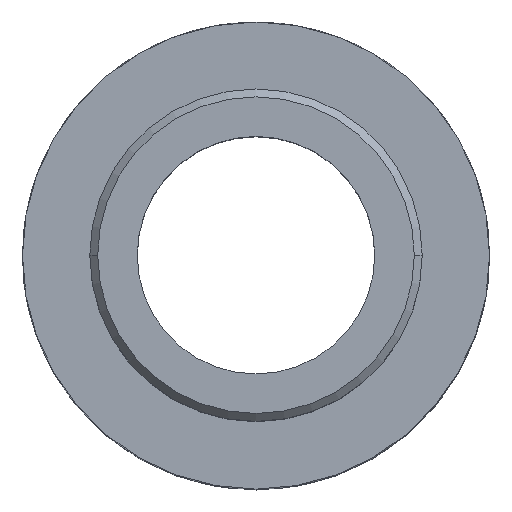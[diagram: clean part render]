
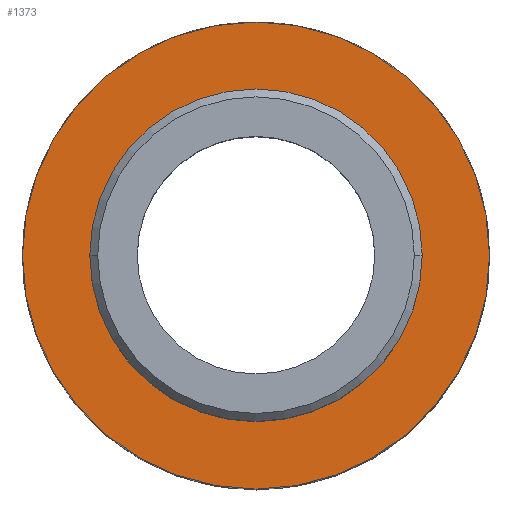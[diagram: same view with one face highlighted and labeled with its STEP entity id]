
A CAD part, top view. The second image highlights one B-rep face of the part: STEP entity #1373.
In plain terms, the highlighted planar face has unit normal (0, 0, 1).
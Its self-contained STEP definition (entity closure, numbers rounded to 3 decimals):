
#1172 = VERTEX_POINT ( 'NONE', #3574 ) ;
#1233 = EDGE_CURVE ( 'NONE', #1172, #1238, #3705, .T. ) ;
#1238 = VERTEX_POINT ( 'NONE', #3754 ) ;
#1278 = VERTEX_POINT ( 'NONE', #3766 ) ;
#1282 = EDGE_CURVE ( 'NONE', #1285, #1278, #3813, .T. ) ;
#1285 = VERTEX_POINT ( 'NONE', #3797 ) ;
#1304 = EDGE_CURVE ( 'NONE', #1238, #1172, #3828, .T. ) ;
#1311 = EDGE_LOOP ( 'NONE', ( #1324, #1377 ) ) ;
#1324 = ORIENTED_EDGE ( 'NONE', *, *, #1282, .T. ) ;
#1334 = EDGE_CURVE ( 'NONE', #1278, #1285, #3889, .T. ) ;
#1371 = ORIENTED_EDGE ( 'NONE', *, *, #1304, .F. ) ;
#1373 = ADVANCED_FACE ( 'NONE', ( #3980, #3978 ), #3993, .F. ) ;
#1375 = ORIENTED_EDGE ( 'NONE', *, *, #1233, .F. ) ;
#1377 = ORIENTED_EDGE ( 'NONE', *, *, #1334, .T. ) ;
#1382 = EDGE_LOOP ( 'NONE', ( #1371, #1375 ) ) ;
#3574 = CARTESIAN_POINT ( 'NONE',  ( -14.75, 0., 0. ) ) ;
#3699 = DIRECTION ( 'NONE',  ( -1., 0., 0. ) ) ;
#3700 = DIRECTION ( 'NONE',  ( 0., 0., -1. ) ) ;
#3701 = CARTESIAN_POINT ( 'NONE',  ( 0., 0., 0. ) ) ;
#3705 = CIRCLE ( 'NONE', #3711, 14.75 ) ;
#3711 = AXIS2_PLACEMENT_3D ( 'NONE', #3701, #3700, #3699 ) ;
#3754 = CARTESIAN_POINT ( 'NONE',  ( 14.75, 0., 0. ) ) ;
#3766 = CARTESIAN_POINT ( 'NONE',  ( 10.498, 0., 0. ) ) ;
#3797 = CARTESIAN_POINT ( 'NONE',  ( -10.498, 0., 0. ) ) ;
#3798 = DIRECTION ( 'NONE',  ( -1., 0., 0. ) ) ;
#3799 = DIRECTION ( 'NONE',  ( 0., 0., -1. ) ) ;
#3803 = CARTESIAN_POINT ( 'NONE',  ( 0., 0., 0. ) ) ;
#3813 = CIRCLE ( 'NONE', #3815, 10.498 ) ;
#3815 = AXIS2_PLACEMENT_3D ( 'NONE', #3803, #3799, #3798 ) ;
#3828 = CIRCLE ( 'NONE', #3878, 14.75 ) ;
#3829 = CARTESIAN_POINT ( 'NONE',  ( 0., 0., 0. ) ) ;
#3873 = DIRECTION ( 'NONE',  ( -1., 0., 0. ) ) ;
#3874 = DIRECTION ( 'NONE',  ( 0., 0., -1. ) ) ;
#3878 = AXIS2_PLACEMENT_3D ( 'NONE', #3829, #3874, #3873 ) ;
#3889 = CIRCLE ( 'NONE', #3934, 10.498 ) ;
#3931 = DIRECTION ( 'NONE',  ( -1., 0., 0. ) ) ;
#3932 = DIRECTION ( 'NONE',  ( 0., 0., -1. ) ) ;
#3933 = CARTESIAN_POINT ( 'NONE',  ( 0., 0., 0. ) ) ;
#3934 = AXIS2_PLACEMENT_3D ( 'NONE', #3933, #3932, #3931 ) ;
#3970 = DIRECTION ( 'NONE',  ( -1., 0., 0. ) ) ;
#3971 = DIRECTION ( 'NONE',  ( 0., 0., -1. ) ) ;
#3972 = CARTESIAN_POINT ( 'NONE',  ( 0., 0., 0. ) ) ;
#3973 = AXIS2_PLACEMENT_3D ( 'NONE', #3972, #3971, #3970 ) ;
#3978 = FACE_BOUND ( 'NONE', #1311, .T. ) ;
#3980 = FACE_OUTER_BOUND ( 'NONE', #1382, .T. ) ;
#3993 = PLANE ( 'NONE',  #3973 ) ;
